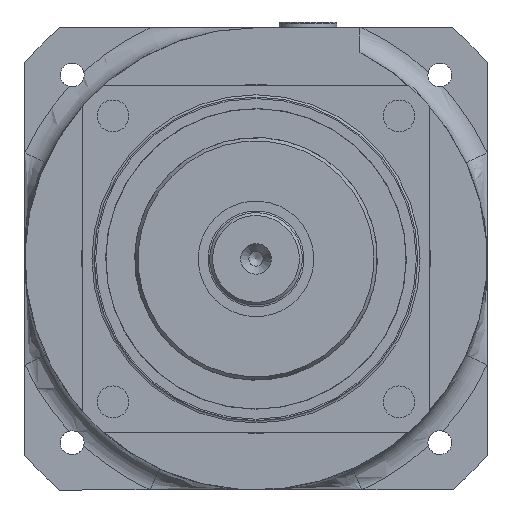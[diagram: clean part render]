
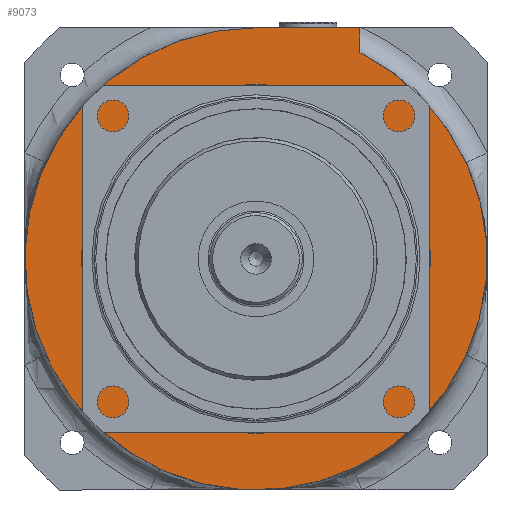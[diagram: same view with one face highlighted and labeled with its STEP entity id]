
A CAD part, left-side view. The second image highlights one B-rep face of the part: STEP entity #9073.
In plain terms, the highlighted planar face has unit normal (-1, 0, 0).
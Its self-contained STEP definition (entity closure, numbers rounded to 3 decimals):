
#869=FACE_BOUND('',#2812,.T.);
#1208=LINE('',#17736,#1569);
#1210=LINE('',#17741,#1571);
#1569=VECTOR('',#13547,10.);
#1571=VECTOR('',#13553,10.);
#1746=PLANE('',#10729);
#2197=FACE_OUTER_BOUND('',#2811,.T.);
#2811=EDGE_LOOP('',(#8190,#8191,#8192));
#2812=EDGE_LOOP('',(#8193));
#3637=CIRCLE('',#10730,40.);
#3638=CIRCLE('',#10731,30.);
#4673=VERTEX_POINT('',#17733);
#4674=VERTEX_POINT('',#17735);
#4675=VERTEX_POINT('',#17739);
#4676=VERTEX_POINT('',#17742);
#5887=EDGE_CURVE('',#4673,#4674,#1208,.T.);
#5889=EDGE_CURVE('',#4674,#4675,#3637,.T.);
#5890=EDGE_CURVE('',#4675,#4673,#1210,.T.);
#5891=EDGE_CURVE('',#4676,#4676,#3638,.T.);
#8190=ORIENTED_EDGE('',*,*,#5889,.F.);
#8191=ORIENTED_EDGE('',*,*,#5887,.F.);
#8192=ORIENTED_EDGE('',*,*,#5890,.F.);
#8193=ORIENTED_EDGE('',*,*,#5891,.T.);
#9073=ADVANCED_FACE('',(#2197,#869),#1746,.T.);
#10729=AXIS2_PLACEMENT_3D('',#17738,#13549,#13550);
#10730=AXIS2_PLACEMENT_3D('',#17740,#13551,#13552);
#10731=AXIS2_PLACEMENT_3D('',#17743,#13554,#13555);
#13547=DIRECTION('',(0.,0.,-1.));
#13549=DIRECTION('center_axis',(-1.,0.,0.));
#13550=DIRECTION('ref_axis',(0.,0.,1.));
#13551=DIRECTION('center_axis',(1.,0.,0.));
#13552=DIRECTION('ref_axis',(0.,0.,1.));
#13553=DIRECTION('',(0.,-1.,0.));
#13554=DIRECTION('center_axis',(1.,0.,0.));
#13555=DIRECTION('ref_axis',(0.,0.,1.));
#17733=CARTESIAN_POINT('',(-8.5,-18.,40.));
#17735=CARTESIAN_POINT('',(-8.5,-18.,35.721));
#17736=CARTESIAN_POINT('',(-8.5,-18.,40.));
#17738=CARTESIAN_POINT('Origin',(-8.5,0.,35.));
#17739=CARTESIAN_POINT('',(-8.5,0.,40.));
#17740=CARTESIAN_POINT('Origin',(-8.5,0.,0.));
#17741=CARTESIAN_POINT('',(-8.5,0.,40.));
#17742=CARTESIAN_POINT('',(-8.5,0.,-30.));
#17743=CARTESIAN_POINT('Origin',(-8.5,0.,0.));
